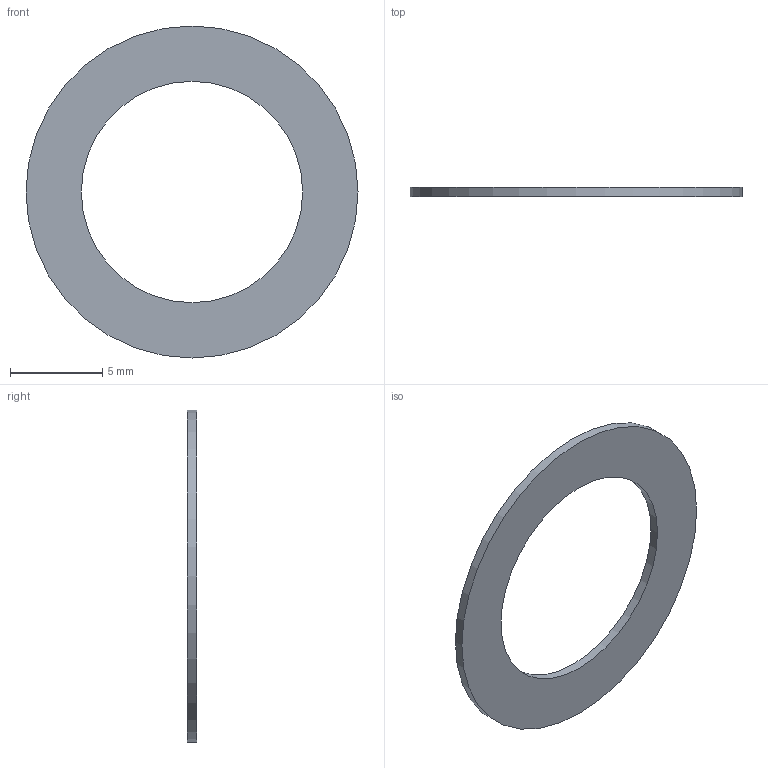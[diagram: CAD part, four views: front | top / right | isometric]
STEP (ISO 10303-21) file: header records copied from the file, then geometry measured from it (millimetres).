
FILE_DESCRIPTION(/* description */ ('','CAx-IF Rec.Pracs.---Representation and Presentation of Product Manufacturing Information (PMI)---4.0---2014-10-13'),/* implementation_level */ '2;1');
FILE_NAME(/* name */ 'Precision Shim - 12mm - 0.5mm.step',/* time_stamp */ '2024-11-28T00:19:18+02:00',/* author */ (''),/* organization */ (''),/* preprocessor_version */ 'ST-DEVELOPER v20',/* originating_system */ 'Autodesk Translation Framework v13.20.0.188',/* authorisation */ '');
FILE_SCHEMA (('AP242_MANAGED_MODEL_BASED_3D_ENGINEERING_MIM_LF { 1 0 10303 442 1 1 4 }'));
Length unit declared in the file: millimetre
Products named in the file (1): Precision Shim - 12mm - 0.5mm
Bounding box: 18 x 0.5 x 18 mm (x, y, z)
Volume: 70.7 mm3; surface area: 329.9 mm2
Topology: 1 solids, 1 shells, 4 faces, 6 edges, 4 vertices
Faces by surface type: cylinder 2, plane 2
Full cylindrical faces by diameter (mm): 12 x1, 18 x1
Entity records: 131 total; most frequent: DIRECTION 20, CARTESIAN_POINT 15, ORIENTED_EDGE 12, AXIS2_PLACEMENT_3D 9, EDGE_LOOP 6, EDGE_CURVE 6, FACE_OUTER_BOUND 4, CIRCLE 4
